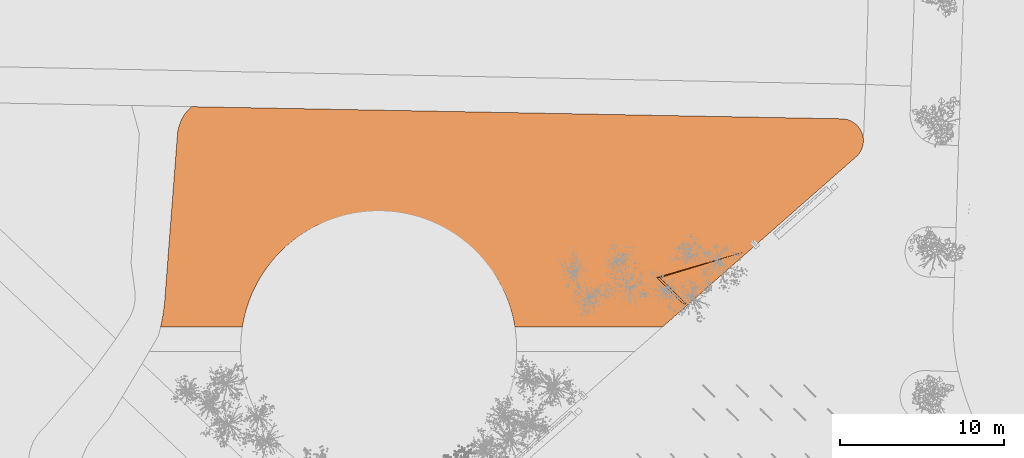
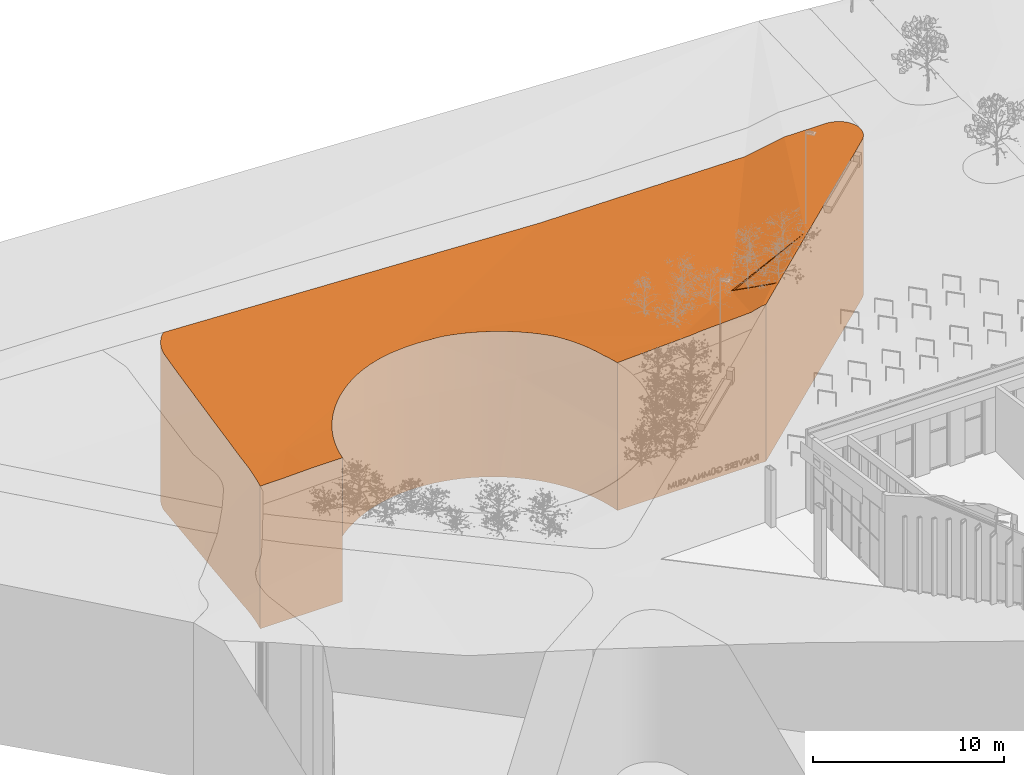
# One storey, part 227 of 246: 1 proxy.
"""IFC2X3 building model written with IfcOpenShell, lengths in millimetres."""

from ifc_helpers import new_model, entity, si_unit, converted_unit, derived_unit, money_unit, direction, frame, origin_with_axes, place, context, subcontext, project, spatial, faceted_brep, material, type_object, element, save


model = new_model("IFC2X3")

# Units and contexts
model_context = context("Model", 3, precision=0.01, world=origin_with_axes(), true_north=direction((0.0, 1.0)))
body_context = subcontext(model_context, "Body", "Model", "MODEL_VIEW")
ifc_project = project(units=[si_unit("LENGTHUNIT", "METRE", prefix="MILLI"), si_unit("AREAUNIT", "SQUARE_METRE"), si_unit("VOLUMEUNIT", "CUBIC_METRE"), converted_unit("PLANEANGLEUNIT", "DEGREE", entity("IfcPlaneAngleMeasure", 0.0174532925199), si_unit("PLANEANGLEUNIT", "RADIAN"), dimensions=[0, 0, 0, 0, 0, 0, 0]), si_unit("SOLIDANGLEUNIT", "STERADIAN"), money_unit("EUR"), converted_unit("TIMEUNIT", "Year", entity("IfcTimeMeasure", 31556926.0), si_unit("TIMEUNIT", "SECOND"), dimensions=[0, 0, 1, 0, 0, 0, 0]), si_unit("MASSUNIT", "GRAM", prefix="KILO"), si_unit("THERMODYNAMICTEMPERATUREUNIT", "DEGREE_CELSIUS"), si_unit("LUMINOUSINTENSITYUNIT", "LUMEN"), si_unit("ENERGYUNIT", "JOULE", prefix="MEGA"), derived_unit("THERMALCONDUCTANCEUNIT", [(si_unit("POWERUNIT", "WATT"), 1), (si_unit("LENGTHUNIT", "METRE"), -1), (si_unit("THERMODYNAMICTEMPERATUREUNIT", "KELVIN"), -1)]), derived_unit("SPECIFICHEATCAPACITYUNIT", [(si_unit("ENERGYUNIT", "JOULE"), 1), (si_unit("MASSUNIT", "GRAM", prefix="KILO"), -1), (si_unit("THERMODYNAMICTEMPERATUREUNIT", "KELVIN"), -1)]), derived_unit("MASSDENSITYUNIT", [(si_unit("MASSUNIT", "GRAM", prefix="KILO"), 1), (si_unit("VOLUMEUNIT", "CUBIC_METRE"), -1)])], contexts=[model_context])

# Site, building, storey
site_placement = place(None, origin_with_axes())
site = spatial("IfcSite", under=ifc_project, at=site_placement, Name="L.Koidula tn 11b", CompositionType="ELEMENT")
building_placement = place(site_placement, origin_with_axes())
building = spatial("IfcBuilding", under=site, at=building_placement, Name="Rakvere Riigigümnaasium", CompositionType="ELEMENT")
storey_placement = place(building_placement, origin_with_axes())
storey = spatial("IfcBuildingStorey", under=building, at=storey_placement, Name="1.korrus 0,00", CompositionType="ELEMENT", Elevation=0.0)

# Proxy
ifc_material = material(Name="Roheala")
building_element_proxy_type = type_object("IfcBuildingElementProxyType", Name="Roheala", PredefinedType="NOTDEFINED")
proxy_placement = place(storey_placement, frame((-8973.87077773, 89192.3188772, -10000.0), z_axis=(0.0, 0.0, 1.0), x_axis=(1.0, 0.0, 0.0)))
element("IfcBuildingElementProxy", 1, at=proxy_placement, inside=storey, type_object=building_element_proxy_type, material=ifc_material, Name="Roheala", context=body_context, shape_type="Brep", body=[
    faceted_brep([(42788.7645317, 11428.8516291, 10120.7578366), (42790.8394667, 11370.6765908, 10121.5239708), (42790.8394667, 11370.6765908, 0.0), (42788.7645317, 11428.8516291, 0.0), (42787.4620612, 11287.7355364, 10122.3985444), (42774.628013, 11544.4142552, 10118.891797), (42750.6095072, 11658.3338456, 10116.7058017), (42716.8868392, 11769.7669797, 10114.2160352), (42673.7096795, 11877.8886455, 10111.4409306), (42621.397697, 11981.8983479, 10108.4010341), (42560.3381911, 12081.0260355, 10105.1188519), (42490.9832251, 12174.5378016, 10101.618684), (42413.8462789, 12261.7413179, 10097.9264447), (42329.4984475, 12341.9909599, 10094.0694698), (42238.5642126, 12414.6925874, 10090.0763151), (42141.7168196, 12479.307943, 10085.9765445), (42039.6732927, 12535.3586373, 10081.8005112), (41984.2250947, 12559.8693712, 10079.6023647), (41681.5844651, 9981.34510091, 10100.0), (42324.8193301, 10339.4387645, 10117.8268019), (42392.062339, 10398.5214878, 10119.4318343), (42433.2439387, 10438.8474426, 10120.3653327), (42508.2644441, 10526.3708731, 10121.8979366), (42575.3713043, 10620.0997184, 10123.0844834), (42634.0537955, 10719.3206454, 10123.9159429), (42683.8653085, 10823.2785229, 10124.3859872), (42724.4267477, 10931.1821687, 10124.4910389), (42755.4294159, 11042.2103709, 10124.2302986), (42776.6373642, 11155.5181379, 10123.6057506), (42787.4620612, 11287.7355364, 0.0), (5008.56705786, 176.010945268, 0.0), (4979.94360448, 0.0, 0.0), (0.0, 0.0, 0.0), (39.2753253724, 175.856316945, 0.0), (108.018669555, 529.616594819, 0.0), (166.901576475, 885.15110066, 0.0), (215.878536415, 1242.18504718, 0.0), (254.911695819, 1600.44248819, 0.0), (283.970886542, 1959.64653188, 0.0), (296.240032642, 2193.3837853, 0.0), (1031.11746851, 11781.4794024, 0.0), (1036.93429346, 11839.4117211, 0.0), (1062.95640545, 11996.2313754, 0.0), (1098.77395632, 12151.10764, 0.0), (1144.24559055, 12303.4292891, 0.0), (1199.19185238, 12452.5951786, 0.0), (1263.39589401, 12598.0166191, 0.0), (1336.60433143, 12739.1196984, 0.0), (1418.52824438, 12875.3475471, 0.0), (1508.84431659, 13006.1625363, 0.0), (1607.19611181, 13131.0483989, 0.0), (1713.19548041, 13249.5122674, 0.0), (1826.42409133, 13361.0866192, 0.0), (1886.42958714, 13413.2088702, 0.0), (41514.0205469, 12672.2731281, 0.0), (41595.10567, 12666.6274072, 0.0), (41710.0794019, 12648.3079451, 0.0), (41823.0526922, 12620.1726048, 0.0), (41933.1891264, 12582.4296904, 0.0), (42039.6732927, 12535.3586373, 0.0), (42141.7168196, 12479.307943, 0.0), (42238.5642126, 12414.6925874, 0.0), (42329.4984475, 12341.9909599, 0.0), (42413.8462789, 12261.7413179, 0.0), (42490.9832251, 12174.5378016, 0.0), (42560.3381911, 12081.0260355, 0.0), (42621.397697, 11981.8983479, 0.0), (42673.7096795, 11877.8886455, 0.0), (42716.8868392, 11769.7669797, 0.0), (42750.6095072, 11658.3338456, 0.0), (42774.628013, 11544.4142552, 0.0), (42776.6373642, 11155.5181379, 0.0), (42755.4294159, 11042.2103709, 0.0), (42724.4267477, 10931.1821687, 0.0), (42683.8653085, 10823.2785229, 0.0), (42634.0537955, 10719.3206454, 0.0), (42575.3713043, 10620.0997184, 0.0), (42508.2644441, 10526.3708731, 0.0), (42433.2439387, 10438.8474426, 0.0), (42392.062339, 10398.5214878, 0.0), (30557.9559628, 0.544886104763, 0.0), (21574.7699479, 0.38474611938, 0.0), (21550.8985927, 143.89721665, 0.0), (21493.2773376, 429.103237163, 0.0), (21425.846206, 712.150451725, 0.0), (21348.6855569, 992.701547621, 0.0), (21261.8873441, 1270.42218681, 0.0), (21165.5550067, 1544.98140435, 0.0), (21059.8033456, 1816.05200285, 0.0), (20944.7583873, 2083.31094233, 0.0), (20820.5572328, 2346.43972529, 0.0), (20687.3478952, 2605.12477616, 0.0), (20545.2891225, 2859.05781509, 0.0), (20394.5502087, 3107.93622528, 0.0), (20235.3107924, 3351.46341363, 0.0), (20067.7606421, 3589.34916417, 0.0), (19892.0994305, 3821.30998397, 0.0), (19708.5364964, 4047.06944093, 0.0), (19517.2905952, 4266.35849324, 0.0), (19318.5896383, 4478.91581, 0.0), (19112.6704214, 4684.48808263, 0.0), (18899.7783422, 4882.83032677, 0.0), (18680.1671083, 5073.70617422, 0.0), (18454.0984346, 5256.88815462, 0.0), (18221.8417314, 5432.15796655, 0.0), (17983.6737833, 5599.30673767, 0.0), (17739.8784196, 5758.13527361, 0.0), (17490.7461759, 5908.45429542, 0.0), (17236.5739477, 6050.08466507, 0.0), (16977.664637, 6182.85759898, 0.0), (16714.3267907, 6306.61486913, 0.0), (16446.8742337, 6421.20899165, 0.0), (16175.6256942, 6526.50340254, 0.0), (15900.9044241, 6622.37262049, 0.0), (15623.037814, 6708.70239631, 0.0), (15342.3570029, 6785.3898492, 0.0), (15059.1964833, 6852.34358926, 0.0), (14773.8937029, 6909.48382645, 0.0), (14486.7886626, 6956.74246568, 0.0), (14198.2235107, 6994.06318793, 0.0), (13908.5421359, 7021.40151739, 0.0), (13618.0897568, 7038.72487446, 0.0), (13327.2125112, 7046.01261457, 0.0), (13036.2570429, 7043.25605277, 0.0), (12745.570089, 7030.45847412, 0.0), (12455.4980667, 7007.63512973, 0.0), (12166.3866603, 6974.81321861, 0.0), (11878.5804092, 6932.03185526, 0.0), (11592.4222978, 6879.34202303, 0.0), (11308.2533459, 6816.80651338, 0.0), (11026.4122031, 6744.49985109, 0.0), (10747.2347448, 6662.50820534, 0.0), (10471.0536721, 6570.92928715, 0.0), (10198.1981152, 6469.87223283, 0.0), (9928.99324116, 6359.45747399, 0.0), (9663.75986654, 6239.81659399, 0.0), (9402.81407498, 6111.09217112, 0.0), (9146.4668405, 5973.4376087, 0.0), (8895.02365695, 5827.01695229, 0.0), (8648.78417392, 5672.00469415, 0.0), (8408.04183966, 5508.5855653, 0.0), (8173.08355135, 5336.95431542, 0.0), (7944.18931323, 5157.31548072, 0.0), (7721.63190289, 4969.88314017, 0.0), (7505.6765462, 4774.88066046, 0.0), (7296.58060124, 4572.54042971, 0.0), (7094.59325159, 4363.10358061, 0.0), (6899.95520941, 4146.819703, 0.0), (6712.89842852, 3923.94654647, 0.0), (6563.18960459, 3731.59523964, 0.0), (6476.00387483, 3615.68661568, 0.0), (6309.73775253, 3377.98886874, 0.0), (6151.77510994, 3134.69389166, 0.0), (6002.30419412, 2886.09162367, 0.0), (5861.50313239, 2632.47832879, 0.0), (5729.53972003, 2374.15624277, 0.0), (5606.57122034, 2111.43321293, 0.0), (5492.7441772, 1844.62233127, 0.0), (5388.19424045, 1574.04156135, 0.0), (5293.04600422, 1300.01335939, 0.0), (5207.41285847, 1022.86428998, 0.0), (5131.39685384, 742.924636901, 0.0), (5065.08858003, 460.528009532, 0.0), (41933.1891264, 12582.4296904, 10079.003806), (41823.0526922, 12620.1726048, 10077.8087195), (41710.0794019, 12648.3079451, 10076.6762593), (41595.10567, 12666.6274072, 10075.6148099), (41514.0205469, 12672.2731281, 10074.9304466), (39005.1889362, 12719.181935, 10054.8838778), (35585.4673769, 4578.25915864, 10100.0), (41901.868203, 9967.81493555, 10112.5464721), (31907.5332426, 1186.3440104, 10044.226773), (30557.9559628, 0.544886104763, 10019.9424307), (41774.3326651, 9855.7564922, 10105.4929544), (41718.3867558, 9806.59990726, 10104.3702971), (41585.650935, 9689.97226209, 10100.0), (35511.1980016, 4352.68548591, 10100.0), (32037.8713678, 1300.8649326, 10041.9686993), (5008.56705786, 176.010945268, 9180.14585831), (4979.94360448, 0.0, 9183.25697273), (1139.13207812, 0.0, 9122.28030241), (0.0, 0.0, 9116.74514068), (2967.65041695, 0.0, 9179.03129665), (1254.30956679, 0.0, 9122.32525162), (39.2753253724, 175.856316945, 9117.80566824), (108.018669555, 529.616594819, 9119.88919513), (126.031814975, 638.379818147, 9120.51460351), (166.901576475, 885.15110066, 9135.85722171), (215.878536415, 1242.18504718, 9158.39843313), (254.911695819, 1600.44248819, 9181.35863284), (283.970886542, 1959.64653188, 9204.72007525), (296.240032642, 2193.3837853, 9220.14598268), (907.67718372, 10170.9288591, 9833.94896883), (1031.11746851, 11781.4794024, 9995.05151082), (353.086551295, 2935.0718951, 9268.4895592), (674.237777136, 7125.19736446, 9588.96478077), (1036.93429346, 11839.4117211, 10000.8104721), (1062.95640545, 11996.2313754, 10016.1310919), (1098.77395632, 12151.10764, 10030.9974124), (1144.24559055, 12303.4292891, 10045.3507631), (1199.19185238, 12452.5951786, 10059.134498), (1263.39589401, 12598.0166191, 10072.2942188), (1336.60433143, 12739.1196984, 10084.7779903), (1418.52824438, 12875.3475471, 10096.5365446), (1508.84431659, 13006.1625363, 10107.5234761), (1607.19611181, 13131.0483989, 10117.6954244), (1713.19548041, 13249.5122674, 10127.0122454), (1826.42409133, 13361.0866192, 10135.43717), (1886.42958714, 13413.2088702, 10139.1870594), (24380.583975, 12992.6250655, 9508.3747745), (24515.3576788, 12990.1051381, 9508.56534493), (36649.5019184, 12763.2273252, 9592.80640599), (25440.5195845, 0.453659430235, 9612.91287728), (21574.7699479, 0.38474611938, 9442.43532004), (30335.7749966, 0.540925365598, 10014.7171994), (29643.1419962, 0.528578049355, 9825.66886419), (26659.3322657, 0.475386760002, 9698.69272787), (25917.8515584, 0.462168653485, 9626.83908271), (25738.2053779, 0.458966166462, 9627.74459402), (21550.8985927, 143.89721665, 9432.68723107), (21493.2773376, 429.103237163, 9412.86561121), (21425.846206, 712.150451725, 9392.74217127), (21348.6855569, 992.701547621, 9372.34089271), (21338.1480979, 1026.41733226, 9369.83336232), (21261.8873441, 1270.42218681, 9377.45886014), (21165.5550067, 1544.98140435, 9385.36594457), (21059.8033456, 1816.05200285, 9392.49152647), (20944.7583873, 2083.31094233, 9398.82711417), (20820.5572328, 2346.43972529, 9404.36515741), (20687.3478952, 2605.12477616, 9409.09905642), (20545.2891225, 2859.05781509, 9413.0231697), (20394.5502087, 3107.93622528, 9416.13282083), (20235.3107924, 3351.46341363, 9418.42430397), (20067.7606421, 3589.34916417, 9419.89488832), (19909.7728185, 3797.97225598, 9420.47763239), (19892.0994305, 3821.30998397, 9418.69823233), (19708.5364964, 4047.06944093, 9401.86251482), (19517.2905952, 4266.35849324, 9385.89714497), (19318.5896383, 4478.91581, 9370.82114901), (19112.6704214, 4684.48808263, 9356.6524933), (18899.7783422, 4882.83032677, 9343.40806289), (18680.1671083, 5073.70617422, 9331.10364142), (18454.0984346, 5256.88815462, 9319.75389229), (18221.8417314, 5432.15796655, 9309.37234122), (17983.6737833, 5599.30673767, 9299.97136011), (17739.8784196, 5758.13527361, 9291.56215226), (17490.7461759, 5908.45429542, 9284.15473911), (17236.5739477, 6050.08466507, 9277.7579482), (16977.664637, 6182.85759898, 9272.37940271), (16714.3267907, 6306.61486913, 9268.02551235), (16446.8742337, 6421.20899165, 9264.70146574), (16175.6256942, 6526.50340254, 9262.41122421), (15900.9044241, 6622.37262049, 9261.15751707), (15623.037814, 6708.70239631, 9260.94183841), (15342.3570029, 6785.3898492, 9261.76444523), (15059.1964833, 6852.34358926, 9263.62435724), (15011.9706114, 6861.80195316, 9264.10356369), (14773.8937029, 6909.48382645, 9251.3134791), (14486.7886626, 6956.74246568, 9235.36455338), (14212.1532794, 6992.2616224, 9219.61187548), (14198.2235107, 6994.06318793, 9219.63402296), (14007.3963974, 7012.072266, 9219.80531982), (13908.5421359, 7021.40151739, 9219.69874666), (13618.0897568, 7038.72487446, 9219.17540811), (13327.2125112, 7046.01261457, 9218.44165542), (13169.2122503, 7044.51569311, 9217.97798456), (13036.2570429, 7043.25605277, 9219.09451293), (13194.8032434, 7044.75814655, 9218.01237784), (12745.570089, 7030.45847412, 9221.19015265), (12678.0848098, 7025.14862122, 9221.39743922), (12455.4980667, 7007.63512973, 9226.68735607), (12703.0721589, 7027.114667, 9221.44586842), (12166.3866603, 6974.81321861, 9232.76463234), (11878.5804092, 6932.03185526, 9238.01819463), (11592.4222978, 6879.34202303, 9242.44178218), (11308.2533459, 6816.80651338, 9246.03012331), (11026.4122031, 6744.49985109, 9248.77894173), (10747.2347448, 6662.50820534, 9250.68496162), (10471.0536721, 6570.92928715, 9251.74591154), (10198.1981152, 6469.87223283, 9251.96052713), (9928.99324116, 6359.45747399, 9251.32855265), (9663.75986654, 6239.81659399, 9249.85074121), (9402.81407498, 6111.09217112, 9247.52885396), (9146.4668405, 5973.4376087, 9244.36565793), (8895.02365695, 5827.01695229, 9240.36492277), (8648.78417392, 5672.00469415, 9235.53141622), (8408.04183966, 5508.5855653, 9229.87089847), (8173.08355135, 5336.95431542, 9223.39011526), (7944.18931323, 5157.31548072, 9216.09678987), (7721.63190289, 4969.88314017, 9207.99961389), (7505.6765462, 4774.88066046, 9199.10823687), (7296.58060124, 4572.54042971, 9189.43325484), (7094.59325159, 4363.10358061, 9178.98619765), (6936.00458872, 4186.87815948, 9174.05560317), (6899.95520941, 4146.819703, 9172.9921295), (7041.09232218, 4303.65277469, 9175.90577249), (6712.89842852, 3923.94654647, 9166.95741682), (6563.18960459, 3731.59523964, 9161.64680303), (6476.00387483, 3615.68661568, 9158.42028304), (6309.73775253, 3377.98886874, 9151.69425346), (6151.77510994, 3134.69389166, 9144.70324986), (6002.30419412, 2886.09162367, 9137.45560353), (5953.84082336, 2798.79856645, 9134.87561903), (5861.50313239, 2632.47832879, 9137.6783387), (5729.53972003, 2374.15624277, 9142.05546139), (5606.57122034, 2111.43321293, 9146.53076538), (5492.7441772, 1844.62233127, 9151.09891739), (5388.19424045, 1574.04156135, 9155.75447344), (5293.04600422, 1300.01335939, 9160.49188543), (5207.41285847, 1022.86428998, 9165.3055077), (5131.39685384, 742.924636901, 9170.18960375), (5065.08858003, 460.528009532, 9175.13835313), (30203.9173251, 3010.04666237, 9190.0), (31789.8551212, 1418.44705596, 10040.0), (31989.6150137, 1408.64984553, 10040.0), (2791.67318205, 2145.82675559, 9140.0), (2591.91328956, 2155.62396602, 9140.0), (13744.0508195, 7539.78866629, 9230.0), (13943.810712, 7529.99145586, 9230.0), (25532.6043759, 280.599038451, 9600.0), (25732.3642684, 270.801828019, 9600.0), (30403.6772176, 3000.24945194, 9190.0)], [[[0, 1, 2, 3]], [[4, 1, 0, 5, 6, 7, 8, 9, 10, 11, 12, 13, 14, 15, 16, 17, 18, 19, 20, 21, 22, 23, 24, 25, 26, 27, 28]], [[1, 4, 29, 2]], [[30, 31, 32, 33, 34, 35, 36, 37, 38, 39, 40, 41, 42, 43, 44, 45, 46, 47, 48, 49, 50, 51, 52, 53, 54, 55, 56, 57, 58, 59, 60, 61, 62, 63, 64, 65, 66, 67, 68, 69, 70, 3, 2, 29, 71, 72, 73, 74, 75, 76, 77, 78, 79, 80, 81, 82, 83, 84, 85, 86, 87, 88, 89, 90, 91, 92, 93, 94, 95, 96, 97, 98, 99, 100, 101, 102, 103, 104, 105, 106, 107, 108, 109, 110, 111, 112, 113, 114, 115, 116, 117, 118, 119, 120, 121, 122, 123, 124, 125, 126, 127, 128, 129, 130, 131, 132, 133, 134, 135, 136, 137, 138, 139, 140, 141, 142, 143, 144, 145, 146, 147, 148, 149, 150, 151, 152, 153, 154, 155, 156, 157, 158, 159, 160, 161, 162]], [[5, 0, 3, 70]], [[6, 5, 70, 69]], [[7, 6, 69, 68]], [[8, 7, 68, 67]], [[9, 8, 67, 66]], [[10, 9, 66, 65]], [[11, 10, 65, 64]], [[12, 11, 64, 63]], [[13, 12, 63, 62]], [[14, 13, 62, 61]], [[15, 14, 61, 60]], [[16, 15, 60, 59]], [[17, 16, 59, 58, 163]], [[17, 163, 164, 165, 166, 167, 168, 169, 18]], [[170, 19, 18]], [[171, 172, 80, 79, 20, 19, 170, 173, 174, 175, 176, 177]], [[21, 20, 79, 78]], [[22, 21, 78, 77]], [[23, 22, 77, 76]], [[24, 23, 76, 75]], [[25, 24, 75, 74]], [[26, 25, 74, 73]], [[27, 26, 73, 72]], [[28, 27, 72, 71]], [[4, 28, 71, 29]], [[178, 179, 31, 30]], [[180, 181, 32, 31, 179, 182, 183]], [[181, 184, 33, 32]], [[184, 185, 34, 33]], [[186, 187, 35, 34, 185]], [[187, 188, 36, 35]], [[188, 189, 37, 36]], [[189, 190, 38, 37]], [[190, 191, 39, 38]], [[192, 193, 40, 39, 191, 194, 195]], [[193, 196, 41, 40]], [[196, 197, 42, 41]], [[197, 198, 43, 42]], [[198, 199, 44, 43]], [[199, 200, 45, 44]], [[200, 201, 46, 45]], [[201, 202, 47, 46]], [[202, 203, 48, 47]], [[203, 204, 49, 48]], [[204, 205, 50, 49]], [[205, 206, 51, 50]], [[206, 207, 52, 51]], [[207, 208, 53, 52]], [[168, 167, 54, 53, 208, 209, 210, 211]], [[167, 166, 55, 54]], [[166, 165, 56, 55]], [[165, 164, 57, 56]], [[164, 163, 58, 57]], [[212, 213, 81, 80, 172, 214, 215, 216, 217, 218]], [[213, 219, 82, 81]], [[219, 220, 83, 82]], [[220, 221, 84, 83]], [[221, 222, 85, 84]], [[223, 224, 86, 85, 222]], [[224, 225, 87, 86]], [[225, 226, 88, 87]], [[226, 227, 89, 88]], [[227, 228, 90, 89]], [[228, 229, 91, 90]], [[229, 230, 92, 91]], [[230, 231, 93, 92]], [[231, 232, 94, 93]], [[232, 233, 95, 94]], [[234, 235, 96, 95, 233]], [[235, 236, 97, 96]], [[236, 237, 98, 97]], [[237, 238, 99, 98]], [[238, 239, 100, 99]], [[239, 240, 101, 100]], [[240, 241, 102, 101]], [[241, 242, 103, 102]], [[242, 243, 104, 103]], [[243, 244, 105, 104]], [[244, 245, 106, 105]], [[245, 246, 107, 106]], [[246, 247, 108, 107]], [[247, 248, 109, 108]], [[248, 249, 110, 109]], [[249, 250, 111, 110]], [[250, 251, 112, 111]], [[251, 252, 113, 112]], [[252, 253, 114, 113]], [[253, 254, 115, 114]], [[254, 255, 116, 115]], [[256, 257, 117, 116, 255]], [[257, 258, 118, 117]], [[259, 260, 119, 118, 258]], [[261, 262, 120, 119, 260]], [[262, 263, 121, 120]], [[263, 264, 122, 121]], [[265, 266, 123, 122, 264, 267]], [[266, 268, 124, 123]], [[269, 270, 125, 124, 268, 271]], [[270, 272, 126, 125]], [[272, 273, 127, 126]], [[273, 274, 128, 127]], [[274, 275, 129, 128]], [[275, 276, 130, 129]], [[276, 277, 131, 130]], [[277, 278, 132, 131]], [[278, 279, 133, 132]], [[279, 280, 134, 133]], [[280, 281, 135, 134]], [[281, 282, 136, 135]], [[282, 283, 137, 136]], [[283, 284, 138, 137]], [[284, 285, 139, 138]], [[285, 286, 140, 139]], [[286, 287, 141, 140]], [[287, 288, 142, 141]], [[288, 289, 143, 142]], [[289, 290, 144, 143]], [[290, 291, 145, 144]], [[291, 292, 146, 145]], [[293, 294, 147, 146, 292, 295]], [[294, 296, 148, 147]], [[296, 297, 149, 148]], [[297, 298, 150, 149]], [[298, 299, 151, 150]], [[299, 300, 152, 151]], [[300, 301, 153, 152]], [[302, 303, 154, 153, 301]], [[303, 304, 155, 154]], [[304, 305, 156, 155]], [[305, 306, 157, 156]], [[306, 307, 158, 157]], [[307, 308, 159, 158]], [[308, 309, 160, 159]], [[309, 310, 161, 160]], [[310, 311, 162, 161]], [[311, 178, 30, 162]], [[168, 211, 312, 169]], [[176, 175, 18, 169]], [[173, 170, 18]], [[172, 171, 313, 214]], [[174, 173, 18]], [[175, 174, 18]], [[177, 176, 169, 314]], [[171, 177, 314, 313]], [[303, 302, 315, 182, 179, 178, 311, 310, 309, 308, 307, 306, 305, 304]], [[181, 180, 316, 186, 185, 184]], [[183, 182, 315]], [[180, 183, 315, 316]], [[194, 191, 190, 189, 188, 187, 186, 316]], [[209, 208, 207, 206, 205, 204, 203, 202, 201, 200, 199, 198, 197, 196, 193, 192, 317]], [[270, 269, 317, 195, 194, 316, 295, 292, 291, 290, 289, 288, 287, 286, 285, 284, 283, 282, 281, 280, 279, 278, 277, 276, 275, 274, 273, 272]], [[192, 195, 317]], [[210, 209, 317, 318]], [[211, 210, 318, 312]], [[213, 212, 319, 223, 222, 221, 220, 219]], [[215, 214, 313, 312]], [[216, 215, 312, 320]], [[217, 216, 320]], [[218, 217, 320, 319]], [[212, 218, 319]], [[224, 223, 319, 234, 233, 232, 231, 230, 229, 228, 227, 226, 225]], [[235, 234, 319, 312, 318, 256, 255, 254, 253, 252, 251, 250, 249, 248, 247, 246, 245, 244, 243, 242, 241, 240, 239, 238, 237, 236]], [[257, 256, 318, 259, 258]], [[260, 259, 318, 317, 261]], [[262, 261, 317, 267, 264, 263]], [[266, 265, 317, 271, 268]], [[265, 267, 317]], [[269, 271, 317]], [[294, 293, 315, 302, 301, 300, 299, 298, 297, 296]], [[293, 295, 316, 315]], [[321, 169, 312]], [[314, 169, 321]], [[312, 313, 314, 321]], [[320, 312, 319]]]),
])

save(model, "model.ifc")
